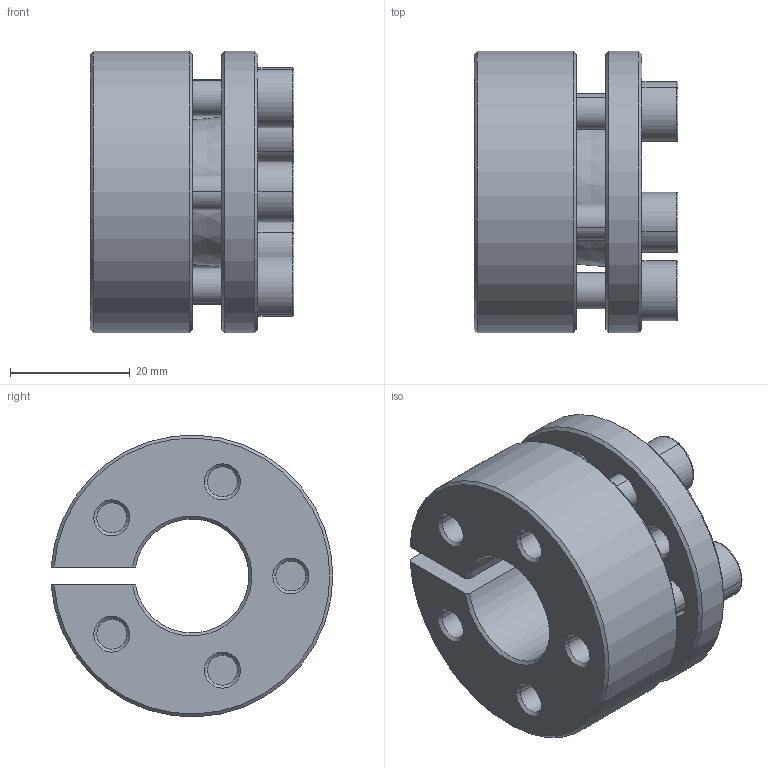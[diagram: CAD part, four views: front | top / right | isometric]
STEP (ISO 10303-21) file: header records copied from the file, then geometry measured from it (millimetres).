
FILE_DESCRIPTION((''),'2;1');
FILE_NAME('398-010-0019','2024-02-17T',('Brieden'),('Brieden'),'PRO/ENGINEER BY PARAMETRIC TECHNOLOGY CORPORATION, 2010160','PRO/ENGINEER BY PARAMETRIC TECHNOLOGY CORPORATION, 2010160','');
FILE_SCHEMA(('AUTOMOTIVE_DESIGN { 1 0 10303 214 1 1 1 1 }'));
Length unit declared in the file: millimetre
Products named in the file (1): 398-010-0019
Bounding box: 34 x 46.95 x 46.98 mm (x, y, z)
Volume: 34505.8 mm3; surface area: 15973.9 mm2
Topology: 1 solids, 6 shells, 154 faces, 364 edges, 232 vertices
Faces by surface type: cylinder 59, plane 56, cone 29, torus 10
Entity records: 5908 total; most frequent: DIRECTION 832, CARTESIAN_POINT 823, ORIENTED_EDGE 708, PRESENTATION_STYLE_ASSIGNMENT 384, STYLED_ITEM 370, CURVE_STYLE 364, EDGE_CURVE 364, AXIS2_PLACEMENT_3D 325
